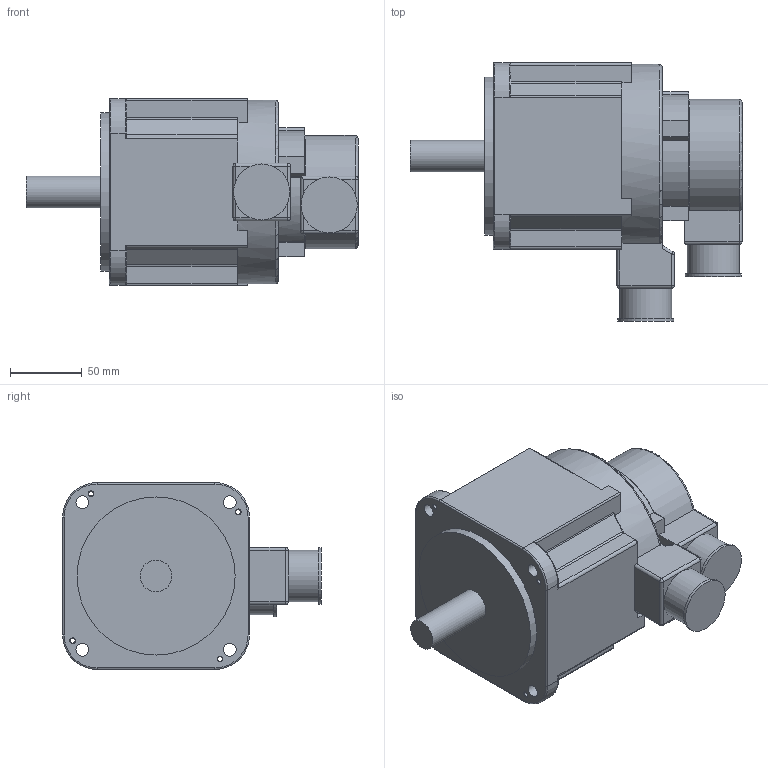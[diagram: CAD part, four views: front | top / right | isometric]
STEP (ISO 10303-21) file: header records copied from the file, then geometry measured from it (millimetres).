
FILE_DESCRIPTION(/* description */ (''),/* implementation_level */ '2;1');
FILE_NAME(/* name */ '130GSL08315.stp',/* time_stamp */ '2019-11-22T13:53:30+08:00',/* author */ (''),/* organization */ (''),/* preprocessor_version */ 'ST-DEVELOPER v16',/* originating_system */ 'SIEMENS PLM Software NX 10.0',/* authorisation */ '');
FILE_SCHEMA (('CONFIG_CONTROL_DESIGN'));
Length unit declared in the file: millimetre
Products named in the file (1): 130GSL08315
Bounding box: 231 x 180 x 130 mm (x, y, z)
Volume: 2196842.7 mm3; surface area: 123518.8 mm2
Topology: 1 solids, 1 shells, 232 faces, 568 edges, 332 vertices
Faces by surface type: cylinder 104, plane 74, torus 31, sphere 11, cone 8, bspline 4
Full cylindrical faces by diameter (mm): 3.3 x4, 9 x4, 22 x1, 36 x2, 39 x2, 110 x1
Entity records: 7194 total; most frequent: CARTESIAN_POINT 1738, DIRECTION 1183, ORIENTED_EDGE 1064, EDGE_CURVE 532, AXIS2_PLACEMENT_3D 465, VERTEX_POINT 329, EDGE_LOOP 275, LINE 253
